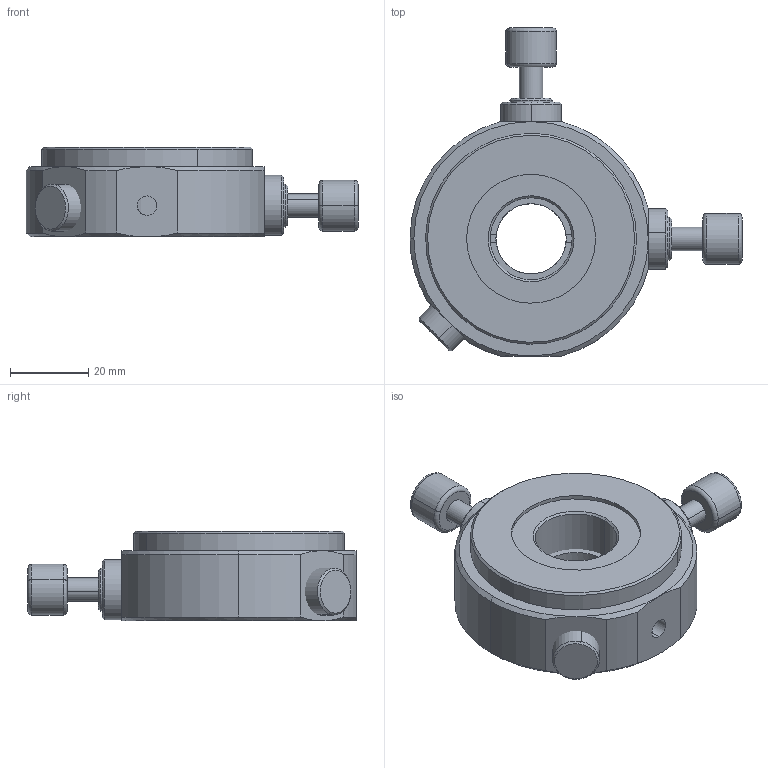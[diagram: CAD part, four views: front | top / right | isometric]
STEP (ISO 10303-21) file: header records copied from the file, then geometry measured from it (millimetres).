
FILE_DESCRIPTION (( 'STEP AP203' ), '1' );
FILE_NAME ('7MML720謗峎覃淕芵噩殤.STEP', '2019-12-04T03:31:42', ( '' ), ( '' ), 'SwSTEP 2.0', 'SolidWorks 2018', '' );
FILE_SCHEMA (( 'CONFIG_CONTROL_DESIGN' ));
Length unit declared in the file: millimetre
Products named in the file (1): 7MML720謗峎覃淕芵噩殤
Bounding box: 85 x 84 x 23 mm (x, y, z)
Volume: 54264.8 mm3; surface area: 29958.8 mm2
Topology: 14 solids, 14 shells, 266 faces, 579 edges, 357 vertices
Faces by surface type: cylinder 110, cone 78, plane 66, torus 8, sphere 4
Entity records: 7629 total; most frequent: CARTESIAN_POINT 1576, DIRECTION 1374, ORIENTED_EDGE 1134, AXIS2_PLACEMENT_3D 587, EDGE_CURVE 567, VERTEX_POINT 353, CIRCLE 320, EDGE_LOOP 316
